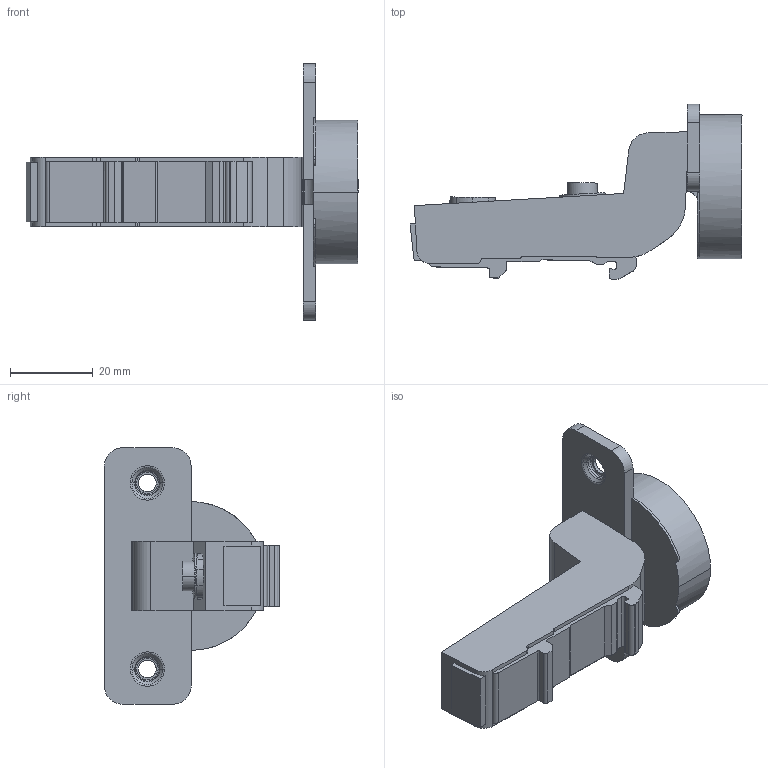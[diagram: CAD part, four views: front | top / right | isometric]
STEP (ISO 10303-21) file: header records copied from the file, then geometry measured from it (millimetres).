
FILE_DESCRIPTION (( 'STEP AP203' ), '1' );
FILE_NAME ('C85C6A5F(DTC3D close).STEP', '2021-04-09T05:38:17', ( '' ), ( '' ), 'SwSTEP 2.0', 'SolidWorks 2018', '' );
FILE_SCHEMA (( 'CONFIG_CONTROL_DESIGN' ));
Length unit declared in the file: millimetre
Products named in the file (1): C85C6A5F(DTC3D close)
Bounding box: 80.28 x 42.41 x 62 mm (x, y, z)
Surface area: 10638.1 mm2 (no closed solid volume)
Topology: 0 solids, 2 shells, 150 faces, 421 edges, 278 vertices
Faces by surface type: plane 66, cylinder 64, torus 12, bspline 4, cone 4
Entity records: 6415 total; most frequent: CARTESIAN_POINT 3294, ORIENTED_EDGE 838, EDGE_CURVE 421, B_SPLINE_CURVE_WITH_KNOTS 413, DIRECTION 304, VERTEX_POINT 278, EDGE_LOOP 161, ADVANCED_FACE 150
